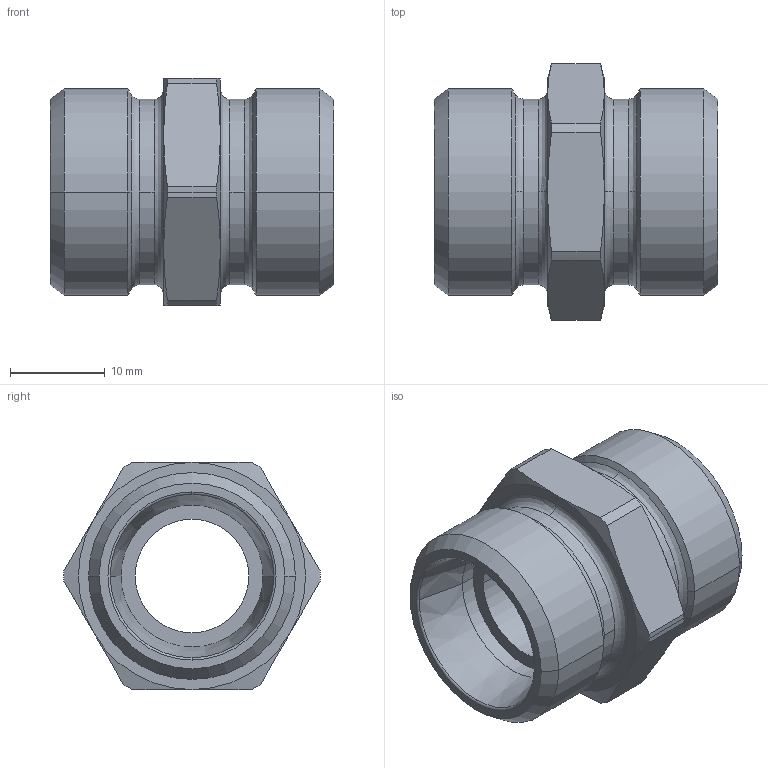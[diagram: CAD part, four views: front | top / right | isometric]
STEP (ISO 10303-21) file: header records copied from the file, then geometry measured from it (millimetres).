
FILE_DESCRIPTION((''),'2;1');
FILE_NAME('103508.stp','2007-10-31T11:34:22',(''),(''),'AutoCAD STEP 2000i','AutoCAD 2000i',', , ');
FILE_SCHEMA(('CONFIG_CONTROL_DESIGN'));
Length unit declared in the file: millimetre
Products named in the file (2): 103508.0; CHIAVE SMUSSATA#0
Assembly tree (1 placements, depth 2):
  103508.0
    CHIAVE SMUSSATA#0
Bounding box: 30 x 27.1 x 24 mm (x, y, z)
Volume: 6760 mm3; surface area: 4087.8 mm2
Topology: 1 solids, 1 shells, 70 faces, 172 edges, 108 vertices
Faces by surface type: cone 24, cylinder 22, plane 12, bspline 8, torus 4
Entity records: 2513 total; most frequent: CARTESIAN_POINT 752, DIRECTION 384, ORIENTED_EDGE 344, AXIS2_PLACEMENT_3D 172, EDGE_CURVE 172, VERTEX_POINT 108, CIRCLE 108, EDGE_LOOP 76
